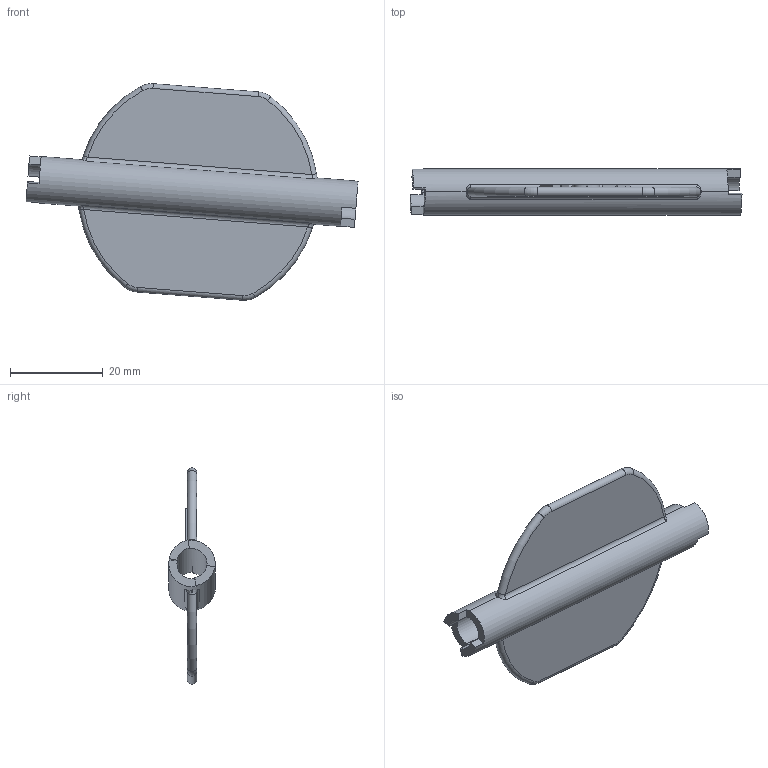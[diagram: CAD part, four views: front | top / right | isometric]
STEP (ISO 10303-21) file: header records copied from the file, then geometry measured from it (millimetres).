
FILE_DESCRIPTION((''),'2;1');
FILE_NAME('0000237117_PRT','2025-11-12T18:36:04',('Wyndorps'),(''),'CREO PARAMETRIC BY PTC INC, 2025010','CREO PARAMETRIC BY PTC INC, 2025010','');
FILE_SCHEMA(('CONFIG_CONTROL_DESIGN'));
Length unit declared in the file: millimetre
Products named in the file (1): 0000237117_PRT
Bounding box: 71.41 x 10 x 46.57 mm (x, y, z)
Volume: 6021.1 mm3; surface area: 6574.2 mm2
Topology: 1 solids, 1 shells, 96 faces, 258 edges, 168 vertices
Faces by surface type: plane 58, cylinder 14, bspline 8, torus 8, extrusion 8
Entity records: 3648 total; most frequent: CARTESIAN_POINT 1274, ORIENTED_EDGE 516, DIRECTION 434, EDGE_CURVE 258, VERTEX_POINT 168, VECTOR 162, LINE 154, AXIS2_PLACEMENT_3D 136
